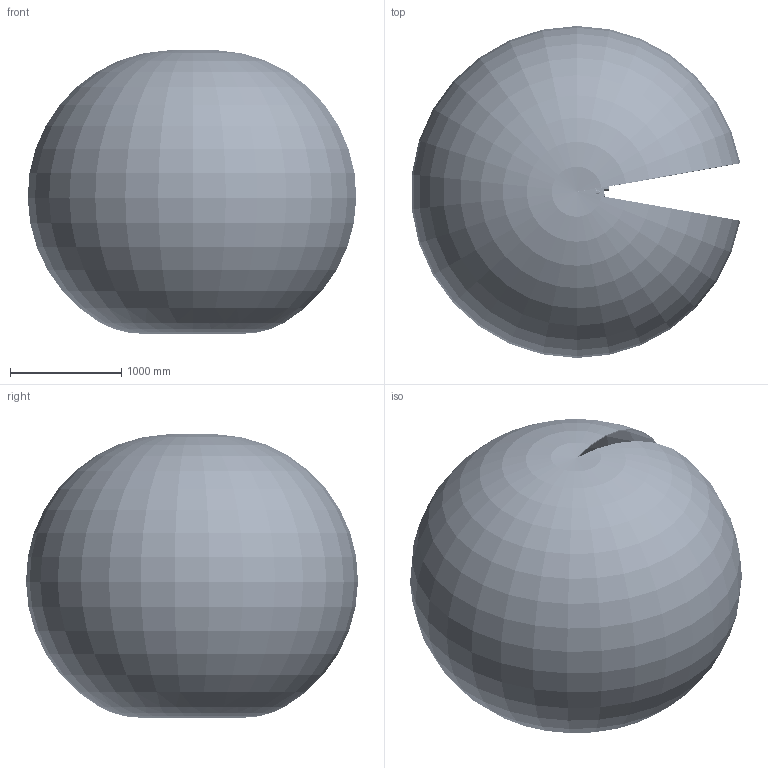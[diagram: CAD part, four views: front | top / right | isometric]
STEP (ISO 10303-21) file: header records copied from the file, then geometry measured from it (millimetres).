
FILE_DESCRIPTION (( 'STEP AP214' ), '1' );
FILE_NAME ('ARC12-1400 杅耀(漪婦釐)-20230912.STEP', '2023-10-08T11:52:59', ( '' ), ( '' ), 'SwSTEP 2.0', 'SolidWorks 2021', '' );
FILE_SCHEMA (( 'AUTOMOTIVE_DESIGN' ));
Length unit declared in the file: millimetre
Products named in the file (9): ARC12-1400 杅耀(漪婦釐)-20230912; 菁釱^ER15H-1400 杅耀(漪婦釐)-20230912; 湮旋^ER15H-1400 杅耀(漪婦釐)-20230912; 末端法兰^ER15H-1400 数模(含包络)-20230912; 忒勂^ER15H-1400 杅耀(漪婦釐)-20230912; 苤旋^ER15H-1400 杅耀(漪婦釐)-20230912; 蛌釱^ER15H-1400 杅耀(漪婦釐)-20230912; 电机座^ER15H-1400 数模(含包络)-20230912; ER15H-1400运动空间^ER15H-1400 数模(含包络)-20230912
Assembly tree (8 placements, depth 2):
  ARC12-1400 杅耀(漪婦釐)-20230912
    菁釱^ER15H-1400 杅耀(漪婦釐)-20230912
    蛌釱^ER15H-1400 杅耀(漪婦釐)-20230912
    湮旋^ER15H-1400 杅耀(漪婦釐)-20230912
    电机座^ER15H-1400 数模(含包络)-20230912
    苤旋^ER15H-1400 杅耀(漪婦釐)-20230912
    忒勂^ER15H-1400 杅耀(漪婦釐)-20230912
    末端法兰^ER15H-1400 数模(含包络)-20230912
    ER15H-1400运动空间^ER15H-1400 数模(含包络)-20230912
Bounding box: 2947.77 x 2978.55 x 2541.66 mm (x, y, z)
Volume: 290713032.8 mm3; surface area: 60246059.8 mm2
Topology: 4 solids, 54 shells, 7232 faces, 17956 edges, 10739 vertices
Faces by surface type: cylinder 2567, plane 1947, bspline 1780, torus 613, cone 254, sphere 71
Entity records: 399608 total; most frequent: CARTESIAN_POINT 187349, ORIENTED_EDGE 35114, DIRECTION 32485, EDGE_CURVE 17574, AXIS2_PLACEMENT_3D 13014, VERTEX_POINT 10737, EDGE_LOOP 7689, CIRCLE 7550
